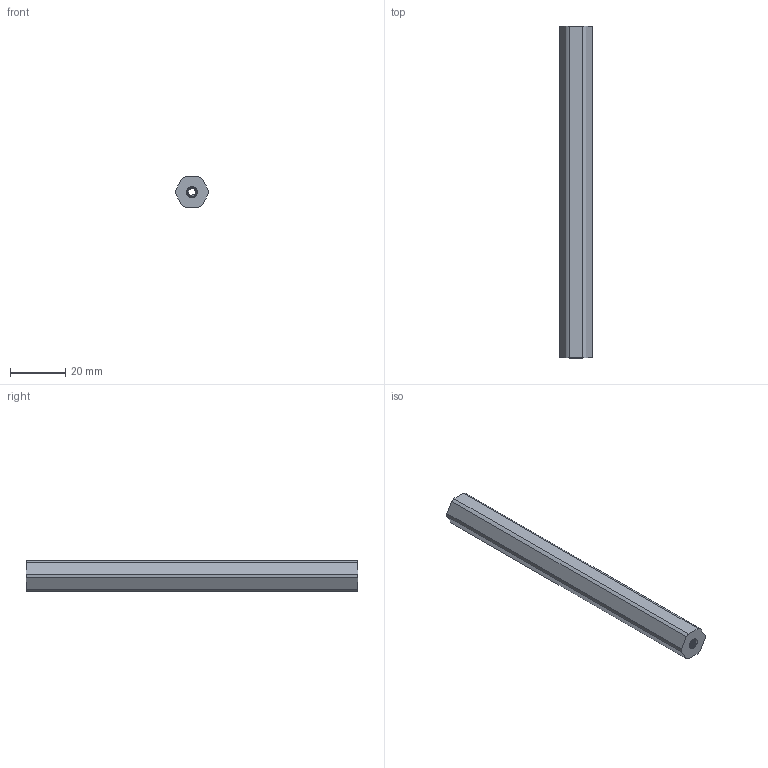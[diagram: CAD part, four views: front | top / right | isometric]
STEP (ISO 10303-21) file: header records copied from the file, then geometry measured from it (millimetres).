
FILE_DESCRIPTION (( 'STEP AP203' ), '1' );
FILE_NAME ('2104-0012-0120.STEP', '2018-03-09T17:44:41', ( '' ), ( '' ), 'SwSTEP 2.0', 'SolidWorks 2016', '' );
FILE_SCHEMA (( 'CONFIG_CONTROL_DESIGN' ));
Length unit declared in the file: millimetre
Products named in the file (1): 2104-0012-0120
Bounding box: 11.99 x 120 x 11 mm (x, y, z)
Volume: 11337.9 mm3; surface area: 6065.2 mm2
Topology: 1 solids, 1 shells, 190 faces, 558 edges, 370 vertices
Faces by surface type: cylinder 168, plane 10, cone 8, bspline 4
Entity records: 11993 total; most frequent: CARTESIAN_POINT 7843, ORIENTED_EDGE 1116, DIRECTION 624, EDGE_CURVE 558, VERTEX_POINT 370, AXIS2_PLACEMENT_3D 217, EDGE_LOOP 192, LINE 190
